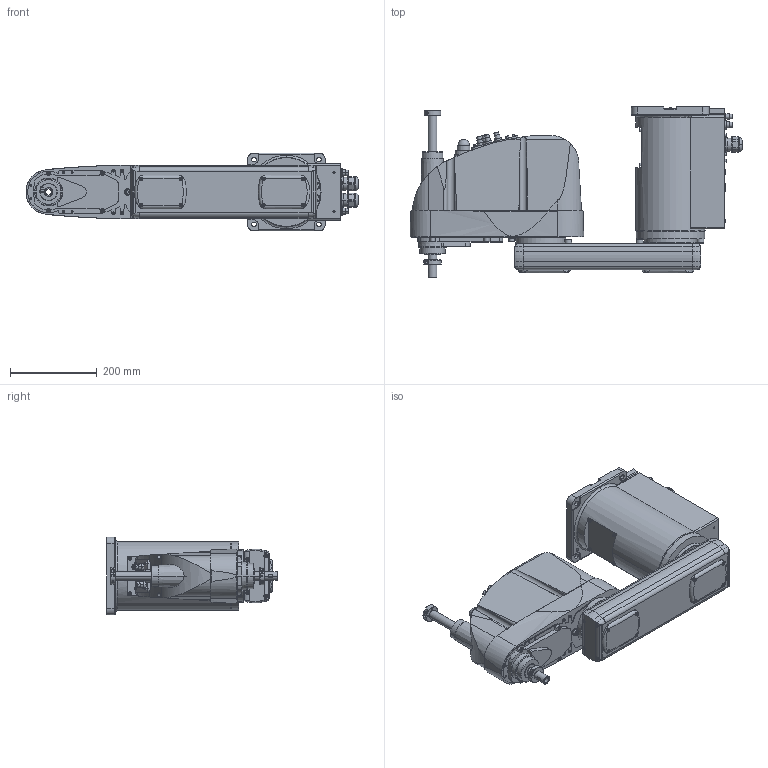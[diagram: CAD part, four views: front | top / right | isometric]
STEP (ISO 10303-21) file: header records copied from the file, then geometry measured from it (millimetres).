
FILE_DESCRIPTION( ( '' ), '1' );
FILE_NAME( '//expscmdclustefs.cadenas.external/client_exchange/iodir/jobs/output/wkb51535898_no0/STEP/G6_551SR_2_03.stp', '2012-11-23T09:26:58', ( '' ), ( '' ), ' ', ' ', ' ' );
FILE_SCHEMA( ( 'CONFIG_CONTROL_DESIGN' ) );
Length unit declared in the file: millimetre
Products named in the file (4): 1; 2; 3; 4
Bounding box: 767.5 x 394 x 180 mm (x, y, z)
Volume: 20164840.9 mm3; surface area: 870875.3 mm2
Topology: 4 solids, 4 shells, 1607 faces, 3933 edges, 2535 vertices
Faces by surface type: plane 823, cylinder 554, cone 202, torus 27, sphere 1
Entity records: 50418 total; most frequent: CARTESIAN_POINT 11572, DIRECTION 8268, ORIENTED_EDGE 7814, EDGE_CURVE 3907, AXIS2_PLACEMENT_3D 2951, VERTEX_POINT 2535, LINE 2366, VECTOR 2366
